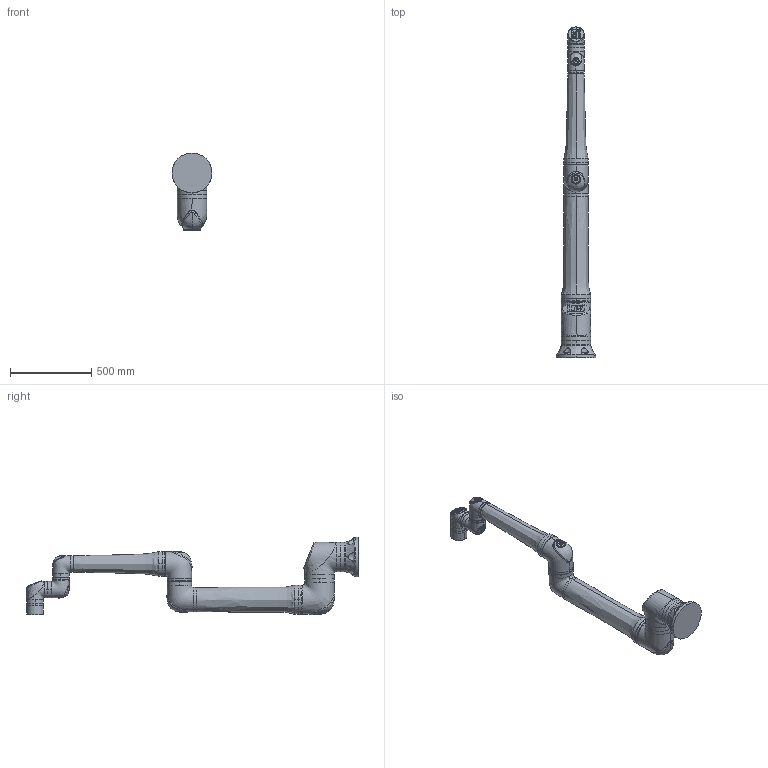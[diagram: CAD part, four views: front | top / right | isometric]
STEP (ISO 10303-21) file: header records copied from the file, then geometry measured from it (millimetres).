
FILE_DESCRIPTION (( 'STEP AP214' ), '1' );
FILE_NAME ('695-903-00_Centercode_B.step', '2024-01-05T09:49:41', ( '' ), ( '' ), 'SwSTEP 2.0', 'SolidWorks 2020', '' );
FILE_SCHEMA (( 'AUTOMOTIVE_DESIGN' ));
Length unit declared in the file: millimetre
Products named in the file (8): C-2003906; C-2007588; C-2003903; 695-903-00_Centercode_B; C-2003905; C-2003907; C-2003904; C-2003908
Assembly tree (7 placements, depth 2):
  695-903-00_Centercode_B
    C-2003903
    C-2003904
    C-2003905
    C-2003906
    C-2003907
    C-2003908
    C-2007588
Bounding box: 245 x 2041.77 x 479.5 mm (x, y, z)
Volume: 45298012.8 mm3; surface area: 1494556.4 mm2
Topology: 7 solids, 12 shells, 1317 faces, 3233 edges, 1986 vertices
Faces by surface type: bspline 856, cylinder 215, plane 96, cone 92, torus 58
Entity records: 109966 total; most frequent: CARTESIAN_POINT 70972, ORIENTED_EDGE 6420, EDGE_CURVE 3210, DIRECTION 3159, VERTEX_POINT 1986, B_SPLINE_CURVE_WITH_KNOTS 1742, EDGE_LOOP 1394, ADVANCED_FACE 1317
